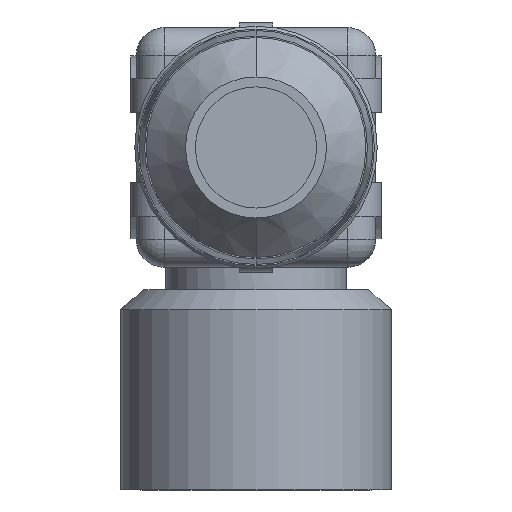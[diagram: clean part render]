
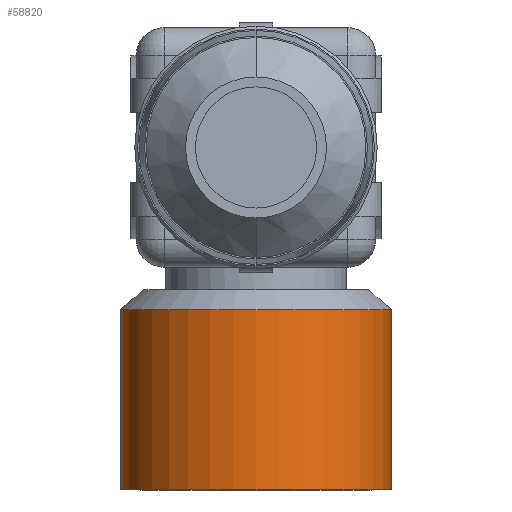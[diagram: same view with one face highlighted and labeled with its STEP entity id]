
A CAD part, front view. The second image highlights one B-rep face of the part: STEP entity #58820.
In plain terms, the highlighted cylindrical face has radius 4.8 mm (diameter 9.6 mm), a partial arc.
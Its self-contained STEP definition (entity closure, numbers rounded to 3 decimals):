
#58210=CARTESIAN_POINT('',(-4.8,0.,-1.48)
);
#58220=VERTEX_POINT('',#58210);
#58300=CARTESIAN_POINT('',(4.8,0.,-1.48))
;
#58310=VERTEX_POINT('',#58300);
#58340=CARTESIAN_POINT('',(0.,0.,
-1.48));
#58350=DIRECTION('',(0.,0.,1.));
#58360=DIRECTION('',(1.,0.,0.));
#58370=AXIS2_PLACEMENT_3D('',#58340,#58350,#58360);
#58380=CIRCLE('',#58370,4.8);
#58390=EDGE_CURVE('',#58220,#58310,#58380,.T.);
#58510=CARTESIAN_POINT('',(0.,0.,
-4.68));
#58520=DIRECTION('',(0.,0.,1.));
#58530=DIRECTION('',(-1.,0.,0.));
#58540=AXIS2_PLACEMENT_3D('',#58510,#58520,#58530);
#58550=CYLINDRICAL_SURFACE('',#58540,4.8);
#58560=CARTESIAN_POINT('',(-4.8,0.,-4.68)
);
#58570=DIRECTION('',(0.,0.,1.));
#58580=VECTOR('',#58570,1.);
#58590=LINE('',#58560,#58580);
#58600=CARTESIAN_POINT('',(-4.8,0.,-7.88));
#58610=VERTEX_POINT('',#58600);
#58620=EDGE_CURVE('',#58610,#58220,#58590,.T.);
#58630=ORIENTED_EDGE('',*,*,#58620,.F.);
#58640=ORIENTED_EDGE('',*,*,#58390,.F.);
#58650=CARTESIAN_POINT('',(4.8,0.,-4.68));
#58660=DIRECTION('',(0.,0.,1.));
#58670=VECTOR('',#58660,1.);
#58680=LINE('',#58650,#58670);
#58690=CARTESIAN_POINT('',(4.8,0.,-7.88));
#58700=VERTEX_POINT('',#58690);
#58710=EDGE_CURVE('',#58700,#58310,#58680,.T.);
#58720=ORIENTED_EDGE('',*,*,#58710,.T.);
#58730=CARTESIAN_POINT('',(0.,0.,
-7.88));
#58740=DIRECTION('',(0.,0.,1.));
#58750=DIRECTION('',(1.,0.,0.));
#58760=AXIS2_PLACEMENT_3D('',#58730,#58740,#58750);
#58770=CIRCLE('',#58760,4.8);
#58780=EDGE_CURVE('',#58610,#58700,#58770,.T.);
#58790=ORIENTED_EDGE('',*,*,#58780,.T.);
#58800=EDGE_LOOP('',(#58790,#58720,#58640,#58630));
#58810=FACE_OUTER_BOUND('',#58800,.T.);
#58820=ADVANCED_FACE('',(#58810),#58550,.T.);
